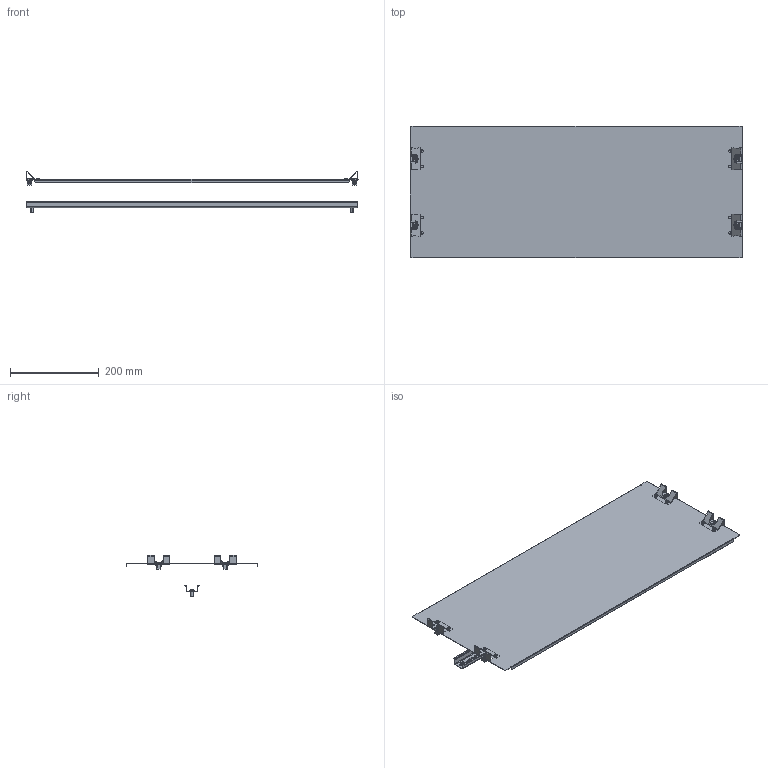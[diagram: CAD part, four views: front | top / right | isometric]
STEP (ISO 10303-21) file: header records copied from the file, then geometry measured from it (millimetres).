
FILE_DESCRIPTION (( 'STEP AP203' ), '1' );
FILE_NAME ('R5ISP830S.STEP', '2022-04-13T09:15:22', ( '' ), ( '' ), 'SwSTEP 2.0', 'SolidWorks 2020', '' );
FILE_SCHEMA (( 'CONFIG_CONTROL_DESIGN' ));
Length unit declared in the file: millimetre
Products named in the file (11): RB.2138.00.00.0 捘_-13; RB.0392.00.02.0_-01; R5ISP830S; 294-9118.00-00050; M5x12 DIN 7500 C Torx Zinc_stright; RB.0376.00.00.0_-00; RB.0517.00.00.0_-04; RB.2138.00.01.0_-13
Assembly tree (17 placements, depth 3):
  R5ISP830S
    RB.2138.00.00.0 捘_-13
      RB.2138.00.01.0_-13
      RB.0392.00.02.0_-01
      RB.0392.00.02.0_-01
      RB.0392.00.02.0_-01
      RB.0392.00.02.0_-01
    RB.0517.00.00.0_-04
    M5x12 DIN 7500 C Torx Zinc_stright  x2
    294-9118.00-00050  x4
    RB.0376.00.00.0_-00  x4
Bounding box: 750 x 298 x 93.03 mm (x, y, z)
Volume: 306308.2 mm3; surface area: 575124.3 mm2
Topology: 16 solids, 16 shells, 1170 faces, 2926 edges, 1826 vertices
Faces by surface type: plane 776, cylinder 274, cone 40, bspline 36, torus 24, sphere 20
Entity records: 24207 total; most frequent: CARTESIAN_POINT 4300, DIRECTION 3896, ORIENTED_EDGE 3784, EDGE_CURVE 1892, VECTOR 1346, LINE 1346, AXIS2_PLACEMENT_3D 1275, VERTEX_POINT 1199
